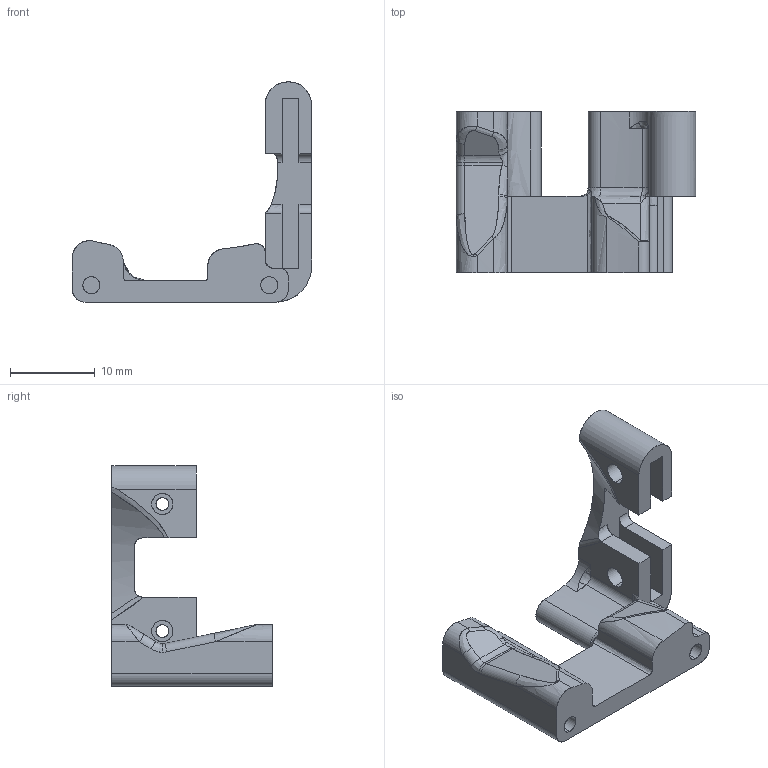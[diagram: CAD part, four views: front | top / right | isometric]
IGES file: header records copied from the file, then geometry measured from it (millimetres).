
Start section: SolidWorks IGES file using analytic representation for surfaces
Global section: file name: C:\Users\Jonathan\Dropbox\BR-Engineering\Models\CAMTILT-X4\PUBLIC-FILES-R2\RASPI2-CAMERA-MOUNT-R1\CAMTILT-RASBPI2-CAMERA-MOUNT-R1.IGS; native system: SolidWorks 2014; preprocessor: SolidWorks 2014; author: Jonathan; date: 160907.125631; units: millimetre
Bounding box: 28.25 x 19 x 26 mm (x, y, z)
Surface area: 2331.4 mm2 (no closed solid volume)
Topology: 0 solids, 0 shells, 110 faces, 1319 edges, 1312 vertices
Faces by surface type: bspline 61, revolution 49
